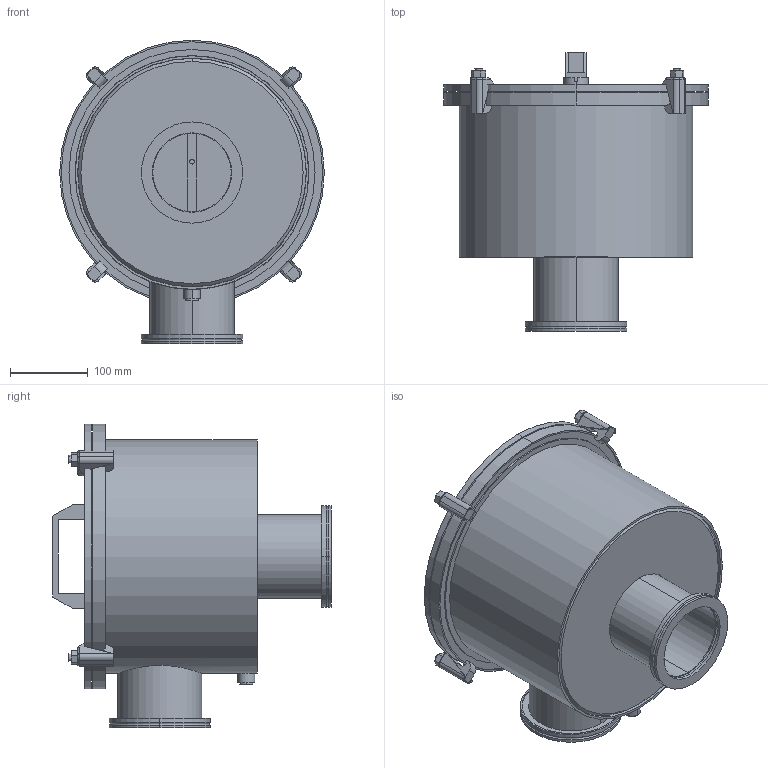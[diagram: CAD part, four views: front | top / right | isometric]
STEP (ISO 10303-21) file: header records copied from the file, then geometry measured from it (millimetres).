
FILE_DESCRIPTION((''),'2;1');
FILE_NAME('71127168','2012-07-03T',('L2200051'),('Copyright by Leybold GmbH'),'PRO/ENGINEER BY PARAMETRIC TECHNOLOGY CORPORATION, 2010430','PRO/ENGINEER BY PARAMETRIC TECHNOLOGY CORPORATION, 2010430','');
FILE_SCHEMA(('AUTOMOTIVE_DESIGN { 1 0 10303 214 1 1 1 1 }'));
Length unit declared in the file: millimetre
Products named in the file (1): 71127168
Bounding box: 340 x 357.5 x 390 mm (x, y, z)
Surface area: 1078812.7 mm2 (no closed solid volume)
Topology: 0 solids, 43 shells, 375 faces, 1137 edges, 801 vertices
Faces by surface type: plane 211, cylinder 116, cone 34, torus 14
Full cylindrical faces by diameter (mm): 294 x1, 300 x1
Entity records: 13025 total; most frequent: CARTESIAN_POINT 2627, DIRECTION 2229, ORIENTED_EDGE 1878, EDGE_CURVE 1135, VERTEX_POINT 801, AXIS2_PLACEMENT_3D 755, VECTOR 719, LINE 719
